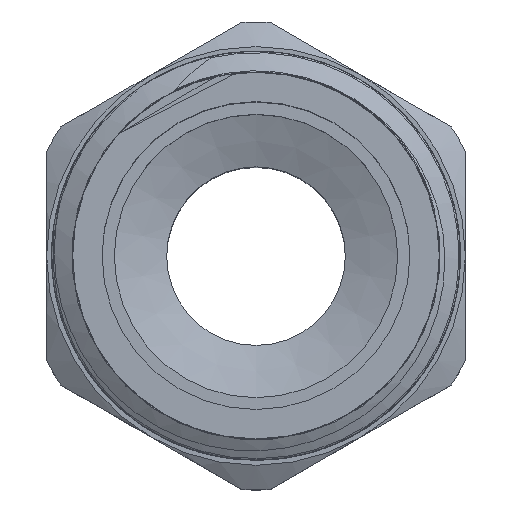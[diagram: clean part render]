
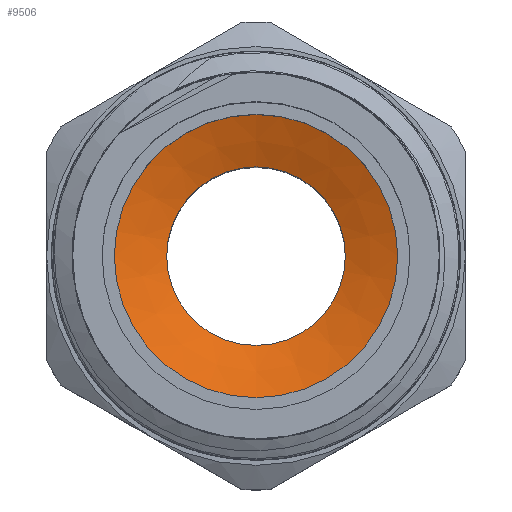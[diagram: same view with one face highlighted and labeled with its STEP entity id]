
A CAD part, top view. The second image highlights one B-rep face of the part: STEP entity #9506.
In plain terms, the highlighted conical face has half-angle 70 degrees and reference radius 9.375 mm.
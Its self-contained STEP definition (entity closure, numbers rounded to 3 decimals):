
#1698=LINE('',#22330,#2207);
#2207=VECTOR('',#11165,9.375);
#2774=FACE_OUTER_BOUND('',#3339,.T.);
#3339=EDGE_LOOP('',(#8731,#8732,#8733,#8734,#8735,#8736));
#3574=CIRCLE('',#9904,7.25);
#3575=CIRCLE('',#9905,7.25);
#3576=CIRCLE('',#9907,11.5);
#3577=CIRCLE('',#9908,11.5);
#4554=VERTEX_POINT('',#22323);
#4555=VERTEX_POINT('',#22325);
#4556=VERTEX_POINT('',#22329);
#4557=VERTEX_POINT('',#22331);
#5973=EDGE_CURVE('',#4555,#4554,#3574,.T.);
#5974=EDGE_CURVE('',#4554,#4555,#3575,.T.);
#5975=EDGE_CURVE('',#4554,#4556,#1698,.T.);
#5976=EDGE_CURVE('',#4557,#4556,#3576,.T.);
#5977=EDGE_CURVE('',#4556,#4557,#3577,.T.);
#8731=ORIENTED_EDGE('',*,*,#5973,.T.);
#8732=ORIENTED_EDGE('',*,*,#5975,.T.);
#8733=ORIENTED_EDGE('',*,*,#5976,.F.);
#8734=ORIENTED_EDGE('',*,*,#5977,.F.);
#8735=ORIENTED_EDGE('',*,*,#5975,.F.);
#8736=ORIENTED_EDGE('',*,*,#5974,.T.);
#9022=CONICAL_SURFACE('',#9906,9.375,1.222);
#9506=ADVANCED_FACE('',(#2774),#9022,.F.);
#9904=AXIS2_PLACEMENT_3D('',#22326,#11159,#11160);
#9905=AXIS2_PLACEMENT_3D('',#22327,#11161,#11162);
#9906=AXIS2_PLACEMENT_3D('',#22328,#11163,#11164);
#9907=AXIS2_PLACEMENT_3D('',#22332,#11166,#11167);
#9908=AXIS2_PLACEMENT_3D('',#22333,#11168,#11169);
#11159=DIRECTION('center_axis',(0.,0.,-1.));
#11160=DIRECTION('ref_axis',(1.,0.,0.));
#11161=DIRECTION('center_axis',(0.,0.,-1.));
#11162=DIRECTION('ref_axis',(1.,0.,0.));
#11163=DIRECTION('center_axis',(0.,0.,1.));
#11164=DIRECTION('ref_axis',(0.,1.,0.));
#11165=DIRECTION('',(0.,-0.94,0.342));
#11166=DIRECTION('center_axis',(0.,0.,-1.));
#11167=DIRECTION('ref_axis',(1.,0.,0.));
#11168=DIRECTION('center_axis',(0.,0.,-1.));
#11169=DIRECTION('ref_axis',(1.,0.,0.));
#22323=CARTESIAN_POINT('',(0.,-7.25,30.453));
#22325=CARTESIAN_POINT('',(0.,7.25,30.453));
#22326=CARTESIAN_POINT('Origin',(0.,0.,30.453));
#22327=CARTESIAN_POINT('Origin',(0.,0.,30.453));
#22328=CARTESIAN_POINT('Origin',(0.,0.,31.227));
#22329=CARTESIAN_POINT('',(0.,-11.5,32.));
#22330=CARTESIAN_POINT('',(0.,-9.375,31.227));
#22331=CARTESIAN_POINT('',(0.,11.5,32.));
#22332=CARTESIAN_POINT('Origin',(0.,0.,32.));
#22333=CARTESIAN_POINT('Origin',(0.,0.,32.));
